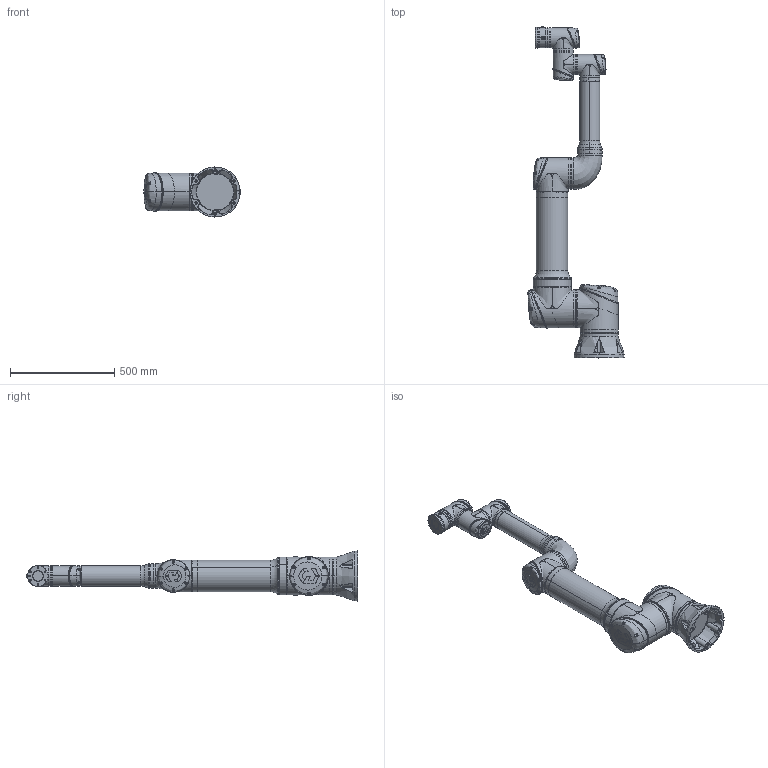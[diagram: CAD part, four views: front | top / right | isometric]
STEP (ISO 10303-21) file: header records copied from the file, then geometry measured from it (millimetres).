
FILE_DESCRIPTION (( 'STEP AP203' ), '1' );
FILE_NAME ('CS_掛极CS630F_V1.1.STEP', '2026-06-22T08:42:45', ( '' ), ( '' ), 'SwSTEP 2.0', 'SolidWorks 2017', '' );
FILE_SCHEMA (( 'CONFIG_CONTROL_DESIGN' ));
Length unit declared in the file: millimetre
Products named in the file (8): CS630F-J1; CS630F-Link2A_Link2B_J4; CS_掛极CS630F_V1.1; CS630F-Flange-2; CS630F-J5; CS630F-Base; CS630F-J2_Link1_J3; CS630F-J6
Assembly tree (7 placements, depth 2):
  CS_掛极CS630F_V1.1
    CS630F-Base
    CS630F-J1
    CS630F-J2_Link1_J3
    CS630F-Link2A_Link2B_J4
    CS630F-J5
    CS630F-J6
    CS630F-Flange-2
Bounding box: 460.8 x 1592 x 239.8 mm (x, y, z)
Volume: 4295312.5 mm3; surface area: 2009254.2 mm2
Topology: 29 solids, 104 shells, 5853 faces, 13872 edges, 8256 vertices
Faces by surface type: bspline 2671, plane 1428, cylinder 1114, cone 371, torus 153, sphere 116
Full cylindrical faces by diameter (mm): 12 x2
Entity records: 326188 total; most frequent: CARTESIAN_POINT 212655, ORIENTED_EDGE 27212, DIRECTION 18242, EDGE_CURVE 13610, VERTEX_POINT 8240, AXIS2_PLACEMENT_3D 7601, EDGE_LOOP 6212, ADVANCED_FACE 5853
